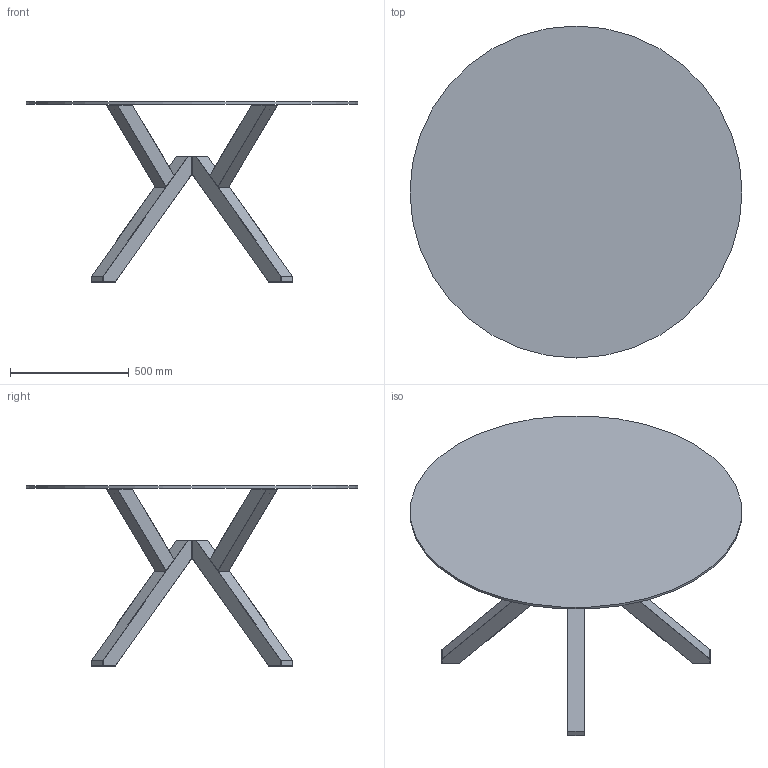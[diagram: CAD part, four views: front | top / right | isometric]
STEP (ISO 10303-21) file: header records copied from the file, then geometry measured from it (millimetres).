
FILE_DESCRIPTION(/* description */ ('Unknown'),/* implementation_level */ '2;1');
FILE_NAME(/* name */ 'CB4789_Mikado_FD-120',/* time_stamp */ '2023-10-23T10:21:56+02:00',/* author */ ('Unknown'),/* organization */ ('Unknown'),/* preprocessor_version */ 'ST-DEVELOPER v18.102',/* originating_system */ 'Solid Edge',/* authorisation */ 'Unknown');
FILE_SCHEMA (('AUTOMOTIVE_DESIGN {1 0 10303 214 3 1 1}'));
Length unit declared in the file: millimetre
Products named in the file (7): 5908_QUADRATO; 5908_supporto metallo; 5908_gamba inferiore per pattino; 5908_gamba inferiore per piedino; 5908_gamba superiore; PARAC.FUNGO TB D14x4-6x15 PVC TRASP.; 5908_vetro Ø120
Assembly tree (14 placements, depth 2):
  5908_QUADRATO
    5908_supporto metallo
    5908_gamba inferiore per pattino  x2
    5908_gamba inferiore per piedino  x2
    5908_gamba superiore  x4
    PARAC.FUNGO TB D14x4-6x15 PVC TRASP.  x4
    5908_vetro Ø120
Bounding box: 1400 x 1400 x 759.55 mm (x, y, z)
Volume: 36778545.3 mm3; surface area: 4542311.2 mm2
Topology: 14 solids, 14 shells, 363 faces, 729 edges, 426 vertices
Faces by surface type: cylinder 165, plane 132, sphere 40, cone 22, torus 4
Full cylindrical faces by diameter (mm): 6 x4, 6.5 x4, 8 x4, 9 x8, 10 x18, 12 x24, 17 x8, 45 x2, 1400 x1
Entity records: 4262 total; most frequent: DIRECTION 799, CARTESIAN_POINT 647, ORIENTED_EDGE 554, AXIS2_PLACEMENT_3D 342, EDGE_CURVE 277, EDGE_LOOP 257, FACE_BOUND 257, VERTEX_POINT 190
